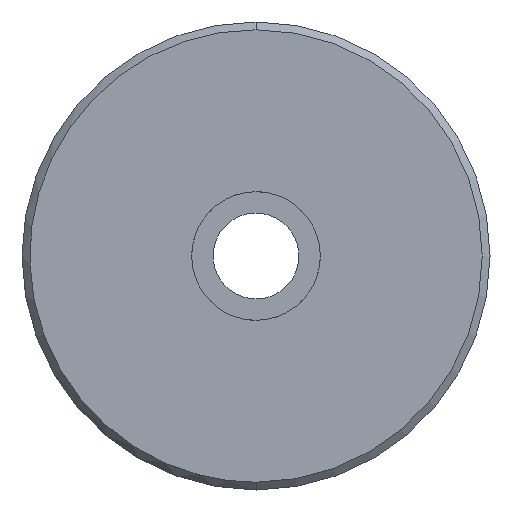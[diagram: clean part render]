
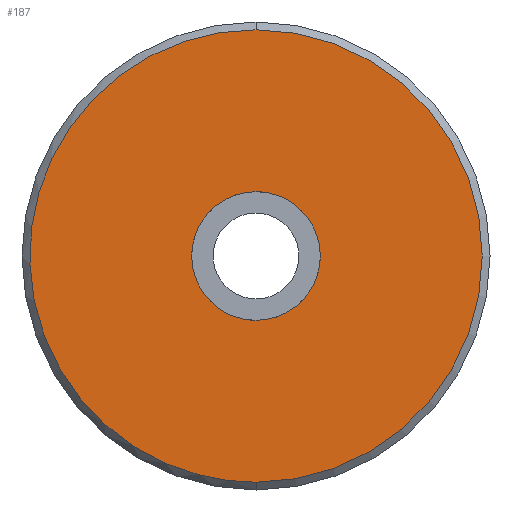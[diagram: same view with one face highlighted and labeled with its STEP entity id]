
A CAD part, front view. The second image highlights one B-rep face of the part: STEP entity #187.
In plain terms, the highlighted planar face has unit normal (0, -1, 0).
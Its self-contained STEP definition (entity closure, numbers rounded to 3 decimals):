
#57=CARTESIAN_POINT('Axis2P3D Location',(0.,0.,0.)) ;
#61=CARTESIAN_POINT('Vertex',(0.,0.,-58.)) ;
#63=CARTESIAN_POINT('Vertex',(0.,0.,58.)) ;
#92=CARTESIAN_POINT('Axis2P3D Location',(0.,0.,0.)) ;
#98=CARTESIAN_POINT('Control Point',(0.,0.,58.)) ;
#99=CARTESIAN_POINT('Control Point',(-5.596,0.,58.)) ;
#100=CARTESIAN_POINT('Control Point',(-11.193,0.,57.325)) ;
#101=CARTESIAN_POINT('Control Point',(-16.681,0.,55.975)) ;
#102=CARTESIAN_POINT('Control Point',(-27.222,0.,51.978)) ;
#103=CARTESIAN_POINT('Control Point',(-36.511,0.,45.589)) ;
#104=CARTESIAN_POINT('Control Point',(-40.746,0.,41.847)) ;
#105=CARTESIAN_POINT('Control Point',(-48.23,0.,33.415)) ;
#106=CARTESIAN_POINT('Control Point',(-53.495,0.,23.446)) ;
#107=CARTESIAN_POINT('Control Point',(-55.511,0.,18.166)) ;
#108=CARTESIAN_POINT('Control Point',(-58.228,0.,7.225)) ;
#109=CARTESIAN_POINT('Control Point',(-58.267,0.,-4.049)) ;
#110=CARTESIAN_POINT('Control Point',(-57.603,0.,-9.662)) ;
#111=CARTESIAN_POINT('Control Point',(-54.934,0.,-20.615)) ;
#112=CARTESIAN_POINT('Control Point',(-49.738,0.,-30.62)) ;
#113=CARTESIAN_POINT('Control Point',(-46.546,0.,-35.284)) ;
#114=CARTESIAN_POINT('Control Point',(-39.1,0.,-43.749)) ;
#115=CARTESIAN_POINT('Control Point',(-29.855,0.,-50.201)) ;
#116=CARTESIAN_POINT('Control Point',(-24.863,0.,-52.851)) ;
#117=CARTESIAN_POINT('Control Point',(-16.909,0.,-55.908)) ;
#118=CARTESIAN_POINT('Control Point',(-8.577,0.,-57.47)) ;
#119=CARTESIAN_POINT('Control Point',(-5.728,0.,-57.823)) ;
#120=CARTESIAN_POINT('Control Point',(-2.864,0.,-58.)) ;
#121=CARTESIAN_POINT('Control Point',(0.,0.,-58.)) ;
#128=CARTESIAN_POINT('Control Point',(0.,0.,-16.5)) ;
#129=CARTESIAN_POINT('Control Point',(1.592,0.,-16.5)) ;
#130=CARTESIAN_POINT('Control Point',(3.184,0.,-16.308)) ;
#131=CARTESIAN_POINT('Control Point',(4.745,0.,-15.924)) ;
#132=CARTESIAN_POINT('Control Point',(7.744,0.,-14.787)) ;
#133=CARTESIAN_POINT('Control Point',(10.386,0.,-12.97)) ;
#134=CARTESIAN_POINT('Control Point',(11.591,0.,-11.905)) ;
#135=CARTESIAN_POINT('Control Point',(13.72,0.,-9.507)) ;
#136=CARTESIAN_POINT('Control Point',(15.218,0.,-6.671)) ;
#137=CARTESIAN_POINT('Control Point',(15.791,0.,-5.169)) ;
#138=CARTESIAN_POINT('Control Point',(16.565,0.,-2.057)) ;
#139=CARTESIAN_POINT('Control Point',(16.576,0.,1.15)) ;
#140=CARTESIAN_POINT('Control Point',(16.387,0.,2.747)) ;
#141=CARTESIAN_POINT('Control Point',(15.629,0.,5.863)) ;
#142=CARTESIAN_POINT('Control Point',(14.151,0.,8.709)) ;
#143=CARTESIAN_POINT('Control Point',(13.243,0.,10.036)) ;
#144=CARTESIAN_POINT('Control Point',(11.125,0.,12.444)) ;
#145=CARTESIAN_POINT('Control Point',(8.496,0.,14.28)) ;
#146=CARTESIAN_POINT('Control Point',(7.076,0.,15.034)) ;
#147=CARTESIAN_POINT('Control Point',(4.813,0.,15.904)) ;
#148=CARTESIAN_POINT('Control Point',(2.442,0.,16.349)) ;
#149=CARTESIAN_POINT('Control Point',(1.631,0.,16.45)) ;
#150=CARTESIAN_POINT('Control Point',(0.815,0.,16.5)) ;
#151=CARTESIAN_POINT('Control Point',(0.,0.,16.5)) ;
#152=CARTESIAN_POINT('Vertex',(0.,0.,-16.5)) ;
#154=CARTESIAN_POINT('Vertex',(0.,0.,16.5)) ;
#158=CARTESIAN_POINT('Control Point',(0.,0.,16.5)) ;
#159=CARTESIAN_POINT('Control Point',(-1.592,0.,16.5)) ;
#160=CARTESIAN_POINT('Control Point',(-3.184,0.,16.308)) ;
#161=CARTESIAN_POINT('Control Point',(-4.745,0.,15.924)) ;
#162=CARTESIAN_POINT('Control Point',(-7.744,0.,14.787)) ;
#163=CARTESIAN_POINT('Control Point',(-10.386,0.,12.97)) ;
#164=CARTESIAN_POINT('Control Point',(-11.591,0.,11.905)) ;
#165=CARTESIAN_POINT('Control Point',(-13.72,0.,9.507)) ;
#166=CARTESIAN_POINT('Control Point',(-15.218,0.,6.671)) ;
#167=CARTESIAN_POINT('Control Point',(-15.791,0.,5.169)) ;
#168=CARTESIAN_POINT('Control Point',(-16.565,0.,2.057)) ;
#169=CARTESIAN_POINT('Control Point',(-16.576,0.,-1.15)) ;
#170=CARTESIAN_POINT('Control Point',(-16.387,0.,-2.747)) ;
#171=CARTESIAN_POINT('Control Point',(-15.629,0.,-5.863)) ;
#172=CARTESIAN_POINT('Control Point',(-14.151,0.,-8.709)) ;
#173=CARTESIAN_POINT('Control Point',(-13.243,0.,-10.036)) ;
#174=CARTESIAN_POINT('Control Point',(-11.125,0.,-12.444)) ;
#175=CARTESIAN_POINT('Control Point',(-8.496,0.,-14.28)) ;
#176=CARTESIAN_POINT('Control Point',(-7.076,0.,-15.034)) ;
#177=CARTESIAN_POINT('Control Point',(-4.813,0.,-15.904)) ;
#178=CARTESIAN_POINT('Control Point',(-2.442,0.,-16.349)) ;
#179=CARTESIAN_POINT('Control Point',(-1.631,0.,-16.45)) ;
#180=CARTESIAN_POINT('Control Point',(-0.815,0.,-16.5)) ;
#181=CARTESIAN_POINT('Control Point',(0.,0.,-16.5)) ;
#58=DIRECTION('Axis2P3D Direction',(-0.,1.,0.)) ;
#93=DIRECTION('Axis2P3D Direction',(0.,1.,0.)) ;
#94=DIRECTION('Axis2P3D XDirection',(0.,-0.,1.)) ;
#59=AXIS2_PLACEMENT_3D('Circle Axis2P3D',#57,#58,$) ;
#95=AXIS2_PLACEMENT_3D('Plane Axis2P3D',#92,#93,#94) ;
#124=ORIENTED_EDGE('',*,*,#122,.T.) ;
#125=ORIENTED_EDGE('',*,*,#65,.T.) ;
#184=ORIENTED_EDGE('',*,*,#156,.F.) ;
#185=ORIENTED_EDGE('',*,*,#182,.F.) ;
#186=FACE_BOUND('',#183,.T.) ;
#187=ADVANCED_FACE('Smusso 2x45\X2\00B0\X0\',(#126,#186),#96,.F.) ;
#97=B_SPLINE_CURVE_WITH_KNOTS('',5,(#98,#99,#100,#101,#102,#103,#104,#105,#106,#107,#108,#109,#110,#111,#112,#113,#114,#115,#116,#117,#118,#119,#120,#121),.UNSPECIFIED.,.F.,.U.,(6,3,3,3,3,3,3,6),(0.,39.572,79.145,118.717,158.289,197.862,237.434,257.685),.UNSPECIFIED.) ;
#127=B_SPLINE_CURVE_WITH_KNOTS('',5,(#128,#129,#130,#131,#132,#133,#134,#135,#136,#137,#138,#139,#140,#141,#142,#143,#144,#145,#146,#147,#148,#149,#150,#151),.UNSPECIFIED.,.F.,.U.,(6,3,3,3,3,3,3,6),(0.,11.257,22.514,33.771,45.028,56.284,67.541,73.307),.UNSPECIFIED.) ;
#157=B_SPLINE_CURVE_WITH_KNOTS('',5,(#158,#159,#160,#161,#162,#163,#164,#165,#166,#167,#168,#169,#170,#171,#172,#173,#174,#175,#176,#177,#178,#179,#180,#181),.UNSPECIFIED.,.F.,.U.,(6,3,3,3,3,3,3,6),(0.,11.257,22.514,33.771,45.028,56.284,67.541,73.307),.UNSPECIFIED.) ;
#60=CIRCLE('generated circle',#59,58.) ;
#65=EDGE_CURVE('',#62,#64,#60,.F.) ;
#122=EDGE_CURVE('',#64,#62,#97,.T.) ;
#156=EDGE_CURVE('',#153,#155,#127,.T.) ;
#182=EDGE_CURVE('',#155,#153,#157,.T.) ;
#123=EDGE_LOOP('',(#124,#125)) ;
#183=EDGE_LOOP('',(#184,#185)) ;
#126=FACE_OUTER_BOUND('',#123,.T.) ;
#96=PLANE('Plane',#95) ;
#62=VERTEX_POINT('',#61) ;
#64=VERTEX_POINT('',#63) ;
#153=VERTEX_POINT('',#152) ;
#155=VERTEX_POINT('',#154) ;
